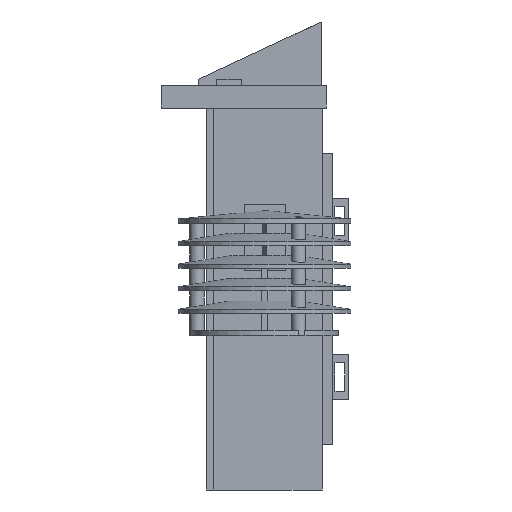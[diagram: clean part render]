
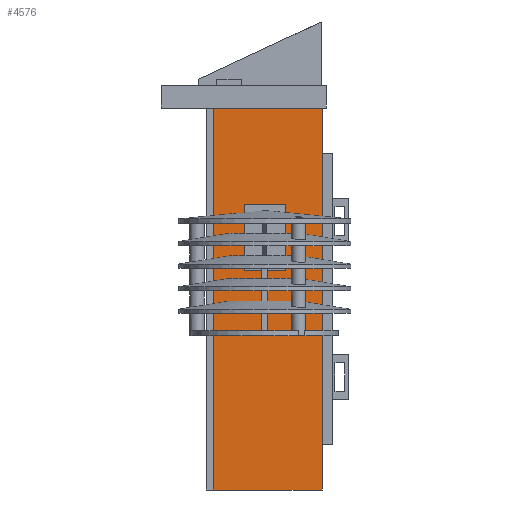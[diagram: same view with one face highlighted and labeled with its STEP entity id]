
A CAD part, left-side view. The second image highlights one B-rep face of the part: STEP entity #4576.
In plain terms, the highlighted planar face has unit normal (-1, 0, 0).
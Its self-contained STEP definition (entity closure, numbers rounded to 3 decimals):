
#130 = PLANE('',#131);
#131 = AXIS2_PLACEMENT_3D('',#132,#133,#134);
#132 = CARTESIAN_POINT('',(138.,53.,0.));
#133 = DIRECTION('',(-0.,1.,-0.));
#134 = DIRECTION('',(0.,0.,-1.));
#158 = PLANE('',#159);
#159 = AXIS2_PLACEMENT_3D('',#160,#161,#162);
#160 = CARTESIAN_POINT('',(138.,0.,186.));
#161 = DIRECTION('',(-0.,-0.,1.));
#162 = DIRECTION('',(1.,0.,0.));
#186 = PLANE('',#187);
#187 = AXIS2_PLACEMENT_3D('',#188,#189,#190);
#188 = CARTESIAN_POINT('',(138.,0.,0.));
#189 = DIRECTION('',(-0.,1.,0.));
#190 = DIRECTION('',(0.,0.,-1.));
#212 = PLANE('',#213);
#213 = AXIS2_PLACEMENT_3D('',#214,#215,#216);
#214 = CARTESIAN_POINT('',(138.,0.,0.));
#215 = DIRECTION('',(-0.,-0.,1.));
#216 = DIRECTION('',(1.,0.,0.));
#229 = VERTEX_POINT('',#230);
#230 = CARTESIAN_POINT('',(0.,53.,186.));
#251 = EDGE_CURVE('',#229,#252,#254,.T.);
#252 = VERTEX_POINT('',#253);
#253 = CARTESIAN_POINT('',(0.,53.,0.));
#254 = SURFACE_CURVE('',#255,(#259,#266),.PCURVE_S1.);
#255 = LINE('',#256,#257);
#256 = CARTESIAN_POINT('',(0.,53.,186.));
#257 = VECTOR('',#258,1.);
#258 = DIRECTION('',(-0.,-0.,-1.));
#259 = PCURVE('',#130,#260);
#260 = DEFINITIONAL_REPRESENTATION('',(#261),#265);
#261 = LINE('',#262,#263);
#262 = CARTESIAN_POINT('',(-186.,138.));
#263 = VECTOR('',#264,1.);
#264 = DIRECTION('',(1.,-0.));
#265 = ( GEOMETRIC_REPRESENTATION_CONTEXT(2) 
PARAMETRIC_REPRESENTATION_CONTEXT() REPRESENTATION_CONTEXT('2D SPACE',''
  ) );
#266 = PCURVE('',#267,#272);
#267 = PLANE('',#268);
#268 = AXIS2_PLACEMENT_3D('',#269,#270,#271);
#269 = CARTESIAN_POINT('',(0.,0.,0.));
#270 = DIRECTION('',(-1.,-0.,-0.));
#271 = DIRECTION('',(0.,0.,-1.));
#272 = DEFINITIONAL_REPRESENTATION('',(#273),#277);
#273 = LINE('',#274,#275);
#274 = CARTESIAN_POINT('',(-186.,-53.));
#275 = VECTOR('',#276,1.);
#276 = DIRECTION('',(1.,-0.));
#277 = ( GEOMETRIC_REPRESENTATION_CONTEXT(2) 
PARAMETRIC_REPRESENTATION_CONTEXT() REPRESENTATION_CONTEXT('2D SPACE',''
  ) );
#1184 = VERTEX_POINT('',#1185);
#1185 = CARTESIAN_POINT('',(0.,0.,186.));
#1206 = EDGE_CURVE('',#1184,#229,#1207,.T.);
#1207 = SURFACE_CURVE('',#1208,(#1212,#1219),.PCURVE_S1.);
#1208 = LINE('',#1209,#1210);
#1209 = CARTESIAN_POINT('',(0.,0.,186.));
#1210 = VECTOR('',#1211,1.);
#1211 = DIRECTION('',(-0.,1.,0.));
#1212 = PCURVE('',#158,#1213);
#1213 = DEFINITIONAL_REPRESENTATION('',(#1214),#1218);
#1214 = LINE('',#1215,#1216);
#1215 = CARTESIAN_POINT('',(-138.,0.));
#1216 = VECTOR('',#1217,1.);
#1217 = DIRECTION('',(0.,1.));
#1218 = ( GEOMETRIC_REPRESENTATION_CONTEXT(2) 
PARAMETRIC_REPRESENTATION_CONTEXT() REPRESENTATION_CONTEXT('2D SPACE',''
  ) );
#1219 = PCURVE('',#267,#1220);
#1220 = DEFINITIONAL_REPRESENTATION('',(#1221),#1225);
#1221 = LINE('',#1222,#1223);
#1222 = CARTESIAN_POINT('',(-186.,-0.));
#1223 = VECTOR('',#1224,1.);
#1224 = DIRECTION('',(-0.,-1.));
#1225 = ( GEOMETRIC_REPRESENTATION_CONTEXT(2) 
PARAMETRIC_REPRESENTATION_CONTEXT() REPRESENTATION_CONTEXT('2D SPACE',''
  ) );
#2661 = VERTEX_POINT('',#2662);
#2662 = CARTESIAN_POINT('',(0.,0.,0.));
#2685 = EDGE_CURVE('',#2661,#1184,#2686,.T.);
#2686 = SURFACE_CURVE('',#2687,(#2691,#2698),.PCURVE_S1.);
#2687 = LINE('',#2688,#2689);
#2688 = CARTESIAN_POINT('',(0.,0.,0.));
#2689 = VECTOR('',#2690,1.);
#2690 = DIRECTION('',(0.,0.,1.));
#2691 = PCURVE('',#186,#2692);
#2692 = DEFINITIONAL_REPRESENTATION('',(#2693),#2697);
#2693 = LINE('',#2694,#2695);
#2694 = CARTESIAN_POINT('',(-0.,138.));
#2695 = VECTOR('',#2696,1.);
#2696 = DIRECTION('',(-1.,0.));
#2697 = ( GEOMETRIC_REPRESENTATION_CONTEXT(2) 
PARAMETRIC_REPRESENTATION_CONTEXT() REPRESENTATION_CONTEXT('2D SPACE',''
  ) );
#2698 = PCURVE('',#267,#2699);
#2699 = DEFINITIONAL_REPRESENTATION('',(#2700),#2704);
#2700 = LINE('',#2701,#2702);
#2701 = CARTESIAN_POINT('',(-0.,-0.));
#2702 = VECTOR('',#2703,1.);
#2703 = DIRECTION('',(-1.,-0.));
#2704 = ( GEOMETRIC_REPRESENTATION_CONTEXT(2) 
PARAMETRIC_REPRESENTATION_CONTEXT() REPRESENTATION_CONTEXT('2D SPACE',''
  ) );
#2836 = EDGE_CURVE('',#2661,#252,#2837,.T.);
#2837 = SURFACE_CURVE('',#2838,(#2842,#2849),.PCURVE_S1.);
#2838 = LINE('',#2839,#2840);
#2839 = CARTESIAN_POINT('',(0.,0.,0.));
#2840 = VECTOR('',#2841,1.);
#2841 = DIRECTION('',(-0.,1.,0.));
#2842 = PCURVE('',#212,#2843);
#2843 = DEFINITIONAL_REPRESENTATION('',(#2844),#2848);
#2844 = LINE('',#2845,#2846);
#2845 = CARTESIAN_POINT('',(-138.,0.));
#2846 = VECTOR('',#2847,1.);
#2847 = DIRECTION('',(0.,1.));
#2848 = ( GEOMETRIC_REPRESENTATION_CONTEXT(2) 
PARAMETRIC_REPRESENTATION_CONTEXT() REPRESENTATION_CONTEXT('2D SPACE',''
  ) );
#2849 = PCURVE('',#267,#2850);
#2850 = DEFINITIONAL_REPRESENTATION('',(#2851),#2855);
#2851 = LINE('',#2852,#2853);
#2852 = CARTESIAN_POINT('',(-0.,-0.));
#2853 = VECTOR('',#2854,1.);
#2854 = DIRECTION('',(-0.,-1.));
#2855 = ( GEOMETRIC_REPRESENTATION_CONTEXT(2) 
PARAMETRIC_REPRESENTATION_CONTEXT() REPRESENTATION_CONTEXT('2D SPACE',''
  ) );
#4576 = ADVANCED_FACE('',(#4577,#4583,#4614),#267,.T.);
#4577 = FACE_BOUND('',#4578,.F.);
#4578 = EDGE_LOOP('',(#4579,#4580,#4581,#4582));
#4579 = ORIENTED_EDGE('',*,*,#251,.F.);
#4580 = ORIENTED_EDGE('',*,*,#1206,.F.);
#4581 = ORIENTED_EDGE('',*,*,#2685,.F.);
#4582 = ORIENTED_EDGE('',*,*,#2836,.T.);
#4583 = FACE_BOUND('',#4584,.F.);
#4584 = EDGE_LOOP('',(#4585));
#4585 = ORIENTED_EDGE('',*,*,#4586,.T.);
#4586 = EDGE_CURVE('',#4587,#4587,#4589,.T.);
#4587 = VERTEX_POINT('',#4588);
#4588 = CARTESIAN_POINT('',(0.,29.7,113.));
#4589 = SURFACE_CURVE('',#4590,(#4595,#4602),.PCURVE_S1.);
#4590 = CIRCLE('',#4591,1.7);
#4591 = AXIS2_PLACEMENT_3D('',#4592,#4593,#4594);
#4592 = CARTESIAN_POINT('',(0.,28.,113.));
#4593 = DIRECTION('',(-1.,0.,0.));
#4594 = DIRECTION('',(-0.,1.,-0.));
#4595 = PCURVE('',#267,#4596);
#4596 = DEFINITIONAL_REPRESENTATION('',(#4597),#4601);
#4597 = CIRCLE('',#4598,1.7);
#4598 = AXIS2_PLACEMENT_2D('',#4599,#4600);
#4599 = CARTESIAN_POINT('',(-113.,-28.));
#4600 = DIRECTION('',(-0.,-1.));
#4601 = ( GEOMETRIC_REPRESENTATION_CONTEXT(2) 
PARAMETRIC_REPRESENTATION_CONTEXT() REPRESENTATION_CONTEXT('2D SPACE',''
  ) );
#4602 = PCURVE('',#4603,#4608);
#4603 = CYLINDRICAL_SURFACE('',#4604,1.7);
#4604 = AXIS2_PLACEMENT_3D('',#4605,#4606,#4607);
#4605 = CARTESIAN_POINT('',(4.,28.,113.));
#4606 = DIRECTION('',(1.,-0.,-0.));
#4607 = DIRECTION('',(-0.,1.,-0.));
#4608 = DEFINITIONAL_REPRESENTATION('',(#4609),#4613);
#4609 = LINE('',#4610,#4611);
#4610 = CARTESIAN_POINT('',(6.283,-4.));
#4611 = VECTOR('',#4612,1.);
#4612 = DIRECTION('',(-1.,0.));
#4613 = ( GEOMETRIC_REPRESENTATION_CONTEXT(2) 
PARAMETRIC_REPRESENTATION_CONTEXT() REPRESENTATION_CONTEXT('2D SPACE',''
  ) );
#4614 = FACE_BOUND('',#4615,.F.);
#4615 = EDGE_LOOP('',(#4616));
#4616 = ORIENTED_EDGE('',*,*,#4617,.T.);
#4617 = EDGE_CURVE('',#4618,#4618,#4620,.T.);
#4618 = VERTEX_POINT('',#4619);
#4619 = CARTESIAN_POINT('',(0.,29.7,133.));
#4620 = SURFACE_CURVE('',#4621,(#4626,#4633),.PCURVE_S1.);
#4621 = CIRCLE('',#4622,1.7);
#4622 = AXIS2_PLACEMENT_3D('',#4623,#4624,#4625);
#4623 = CARTESIAN_POINT('',(0.,28.,133.));
#4624 = DIRECTION('',(-1.,0.,0.));
#4625 = DIRECTION('',(-0.,1.,-0.));
#4626 = PCURVE('',#267,#4627);
#4627 = DEFINITIONAL_REPRESENTATION('',(#4628),#4632);
#4628 = CIRCLE('',#4629,1.7);
#4629 = AXIS2_PLACEMENT_2D('',#4630,#4631);
#4630 = CARTESIAN_POINT('',(-133.,-28.));
#4631 = DIRECTION('',(-0.,-1.));
#4632 = ( GEOMETRIC_REPRESENTATION_CONTEXT(2) 
PARAMETRIC_REPRESENTATION_CONTEXT() REPRESENTATION_CONTEXT('2D SPACE',''
  ) );
#4633 = PCURVE('',#4634,#4639);
#4634 = CYLINDRICAL_SURFACE('',#4635,1.7);
#4635 = AXIS2_PLACEMENT_3D('',#4636,#4637,#4638);
#4636 = CARTESIAN_POINT('',(4.,28.,133.));
#4637 = DIRECTION('',(1.,-0.,-0.));
#4638 = DIRECTION('',(-0.,1.,-0.));
#4639 = DEFINITIONAL_REPRESENTATION('',(#4640),#4644);
#4640 = LINE('',#4641,#4642);
#4641 = CARTESIAN_POINT('',(6.283,-4.));
#4642 = VECTOR('',#4643,1.);
#4643 = DIRECTION('',(-1.,0.));
#4644 = ( GEOMETRIC_REPRESENTATION_CONTEXT(2) 
PARAMETRIC_REPRESENTATION_CONTEXT() REPRESENTATION_CONTEXT('2D SPACE',''
  ) );
